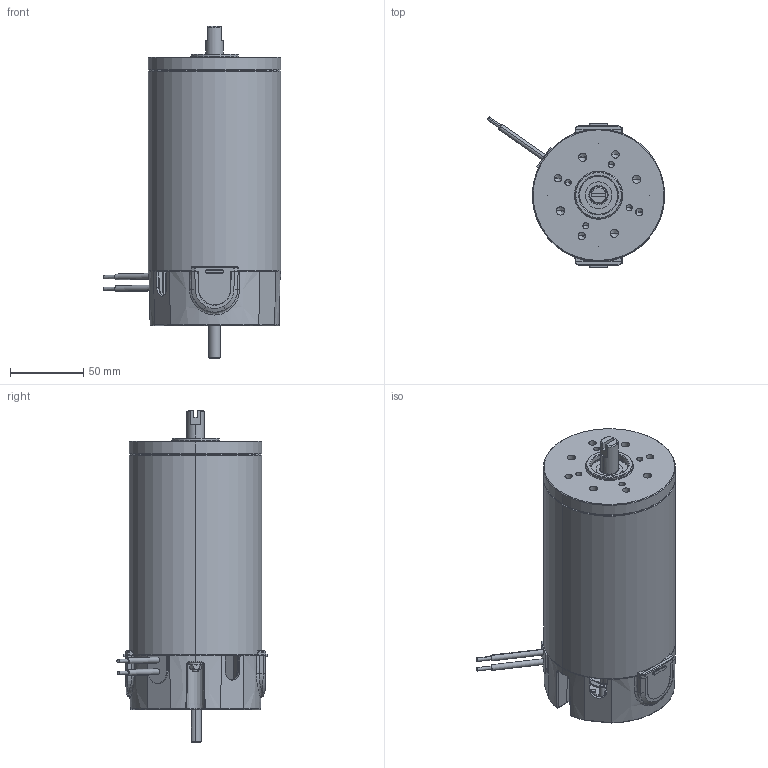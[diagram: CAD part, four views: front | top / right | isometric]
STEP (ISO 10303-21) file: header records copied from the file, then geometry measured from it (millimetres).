
FILE_DESCRIPTION (( 'STEP AP214' ), '1' );
FILE_NAME ('BRx90-75 Motor Assy.STEP', '2023-11-10T11:20:21', ( '' ), ( '' ), 'SwSTEP 2.0', 'SolidWorks 2023', '' );
FILE_SCHEMA (( 'AUTOMOTIVE_DESIGN' ));
Length unit declared in the file: millimetre
Products named in the file (1): BRx90-75 Motor Assy
Bounding box: 120.71 x 102.23 x 225.95 mm (x, y, z)
Volume: 392361.9 mm3; surface area: 174758.3 mm2
Topology: 18 solids, 18 shells, 1434 faces, 3366 edges, 1943 vertices
Faces by surface type: cylinder 405, plane 310, torus 231, cone 226, bspline 182, sphere 80
Entity records: 61866 total; most frequent: CARTESIAN_POINT 14512, DIRECTION 6808, ORIENTED_EDGE 6504, EDGE_CURVE 3252, AXIS2_PLACEMENT_3D 2870, VERTEX_POINT 1943, CIRCLE 1617, EDGE_LOOP 1547
